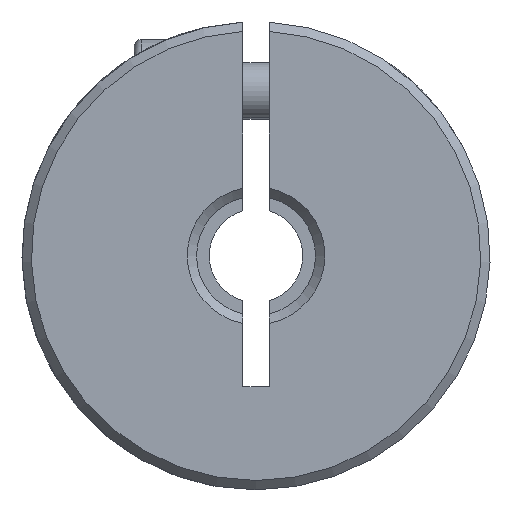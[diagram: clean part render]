
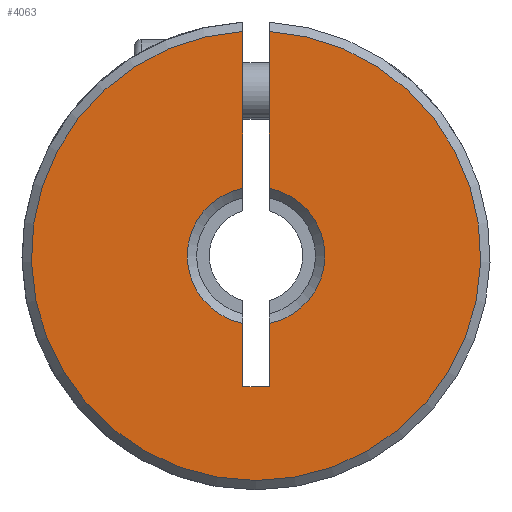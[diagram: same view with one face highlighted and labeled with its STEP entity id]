
A CAD part, front view. The second image highlights one B-rep face of the part: STEP entity #4063.
In plain terms, the highlighted planar face has unit normal (0, -1, 0).
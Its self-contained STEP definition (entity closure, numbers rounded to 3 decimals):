
#179 = CIRCLE ( 'NONE', #3247, 3.675 ) ;
#285 = EDGE_CURVE ( 'NONE', #2249, #4056, #3936, .T. ) ;
#308 = VERTEX_POINT ( 'NONE', #1113 ) ;
#445 = DIRECTION ( 'NONE',  ( 1., 0., 0. ) ) ;
#482 = LINE ( 'NONE', #2557, #4100 ) ;
#499 = AXIS2_PLACEMENT_3D ( 'NONE', #5404, #4879, #2481 ) ;
#590 = CARTESIAN_POINT ( 'NONE',  ( -0.7, 0.25, -3.608 ) ) ;
#722 = ORIENTED_EDGE ( 'NONE', *, *, #2372, .F. ) ;
#805 = DIRECTION ( 'NONE',  ( 0., 0., 1. ) ) ;
#829 = CARTESIAN_POINT ( 'NONE',  ( 0.7, 0.25, -7. ) ) ;
#949 = CARTESIAN_POINT ( 'NONE',  ( 0.7, 0.25, 3.608 ) ) ;
#1040 = CARTESIAN_POINT ( 'NONE',  ( -0.7, 0.25, 11.98 ) ) ;
#1113 = CARTESIAN_POINT ( 'NONE',  ( 0.7, 0.25, 11.98 ) ) ;
#1128 = LINE ( 'NONE', #2783, #1753 ) ;
#1169 = ORIENTED_EDGE ( 'NONE', *, *, #3937, .T. ) ;
#1235 = DIRECTION ( 'NONE',  ( 0., 1., 0. ) ) ;
#1242 = ORIENTED_EDGE ( 'NONE', *, *, #2081, .T. ) ;
#1300 = CIRCLE ( 'NONE', #3140, 3.675 ) ;
#1374 = CARTESIAN_POINT ( 'NONE',  ( -0.7, 0.25, -7. ) ) ;
#1675 = PLANE ( 'NONE',  #4092 ) ;
#1753 = VECTOR ( 'NONE', #4859, 1000. ) ;
#1815 = LINE ( 'NONE', #1374, #4286 ) ;
#1843 = CARTESIAN_POINT ( 'NONE',  ( 0.7, 0.25, -7. ) ) ;
#2081 = EDGE_CURVE ( 'NONE', #4509, #3232, #179, .T. ) ;
#2183 = EDGE_CURVE ( 'NONE', #3078, #3232, #1815, .T. ) ;
#2199 = DIRECTION ( 'NONE',  ( 0., 0., 1. ) ) ;
#2234 = DIRECTION ( 'NONE',  ( 0., 0., -1. ) ) ;
#2249 = VERTEX_POINT ( 'NONE', #1843 ) ;
#2357 = CARTESIAN_POINT ( 'NONE',  ( 0.7, 0.25, -7. ) ) ;
#2372 = EDGE_CURVE ( 'NONE', #4509, #4015, #1128, .T. ) ;
#2399 = ORIENTED_EDGE ( 'NONE', *, *, #5426, .F. ) ;
#2467 = LINE ( 'NONE', #829, #3427 ) ;
#2481 = DIRECTION ( 'NONE',  ( 0., 0., 1. ) ) ;
#2557 = CARTESIAN_POINT ( 'NONE',  ( 0.7, 0.25, -7. ) ) ;
#2590 = CARTESIAN_POINT ( 'NONE',  ( 12.5, 0.25, -50. ) ) ;
#2639 = CARTESIAN_POINT ( 'NONE',  ( -0.7, 0.25, -7. ) ) ;
#2780 = EDGE_CURVE ( 'NONE', #4015, #2249, #2467, .T. ) ;
#2783 = CARTESIAN_POINT ( 'NONE',  ( -0.7, 0.25, -7. ) ) ;
#2903 = CARTESIAN_POINT ( 'NONE',  ( 0., 0.25, 0. ) ) ;
#2917 = DIRECTION ( 'NONE',  ( 0., 0., 1. ) ) ;
#3078 = VERTEX_POINT ( 'NONE', #1040 ) ;
#3140 = AXIS2_PLACEMENT_3D ( 'NONE', #2903, #4573, #805 ) ;
#3232 = VERTEX_POINT ( 'NONE', #3847 ) ;
#3247 = AXIS2_PLACEMENT_3D ( 'NONE', #5409, #1235, #2917 ) ;
#3427 = VECTOR ( 'NONE', #445, 1000. ) ;
#3806 = CARTESIAN_POINT ( 'NONE',  ( 0.7, 0.25, -3.608 ) ) ;
#3847 = CARTESIAN_POINT ( 'NONE',  ( -0.7, 0.25, 3.608 ) ) ;
#3856 = DIRECTION ( 'NONE',  ( 0., 0., 1. ) ) ;
#3914 = CIRCLE ( 'NONE', #499, 12. ) ;
#3935 = ORIENTED_EDGE ( 'NONE', *, *, #285, .F. ) ;
#3936 = LINE ( 'NONE', #2357, #5203 ) ;
#3937 = EDGE_CURVE ( 'NONE', #3078, #308, #3914, .T. ) ;
#4015 = VERTEX_POINT ( 'NONE', #2639 ) ;
#4016 = DIRECTION ( 'NONE',  ( 0., 0., 1. ) ) ;
#4056 = VERTEX_POINT ( 'NONE', #3806 ) ;
#4063 = ADVANCED_FACE ( 'NONE', ( #5430 ), #1675, .F. ) ;
#4092 = AXIS2_PLACEMENT_3D ( 'NONE', #2590, #4240, #2199 ) ;
#4100 = VECTOR ( 'NONE', #3856, 1000. ) ;
#4240 = DIRECTION ( 'NONE',  ( 0., 1., 0. ) ) ;
#4286 = VECTOR ( 'NONE', #2234, 1000. ) ;
#4490 = ORIENTED_EDGE ( 'NONE', *, *, #2183, .F. ) ;
#4509 = VERTEX_POINT ( 'NONE', #590 ) ;
#4573 = DIRECTION ( 'NONE',  ( 0., 1., 0. ) ) ;
#4817 = ORIENTED_EDGE ( 'NONE', *, *, #2780, .F. ) ;
#4859 = DIRECTION ( 'NONE',  ( 0., 0., -1. ) ) ;
#4865 = EDGE_LOOP ( 'NONE', ( #2399, #5300, #3935, #4817, #722, #1242, #4490, #1169 ) ) ;
#4879 = DIRECTION ( 'NONE',  ( 0., -1., 0. ) ) ;
#5203 = VECTOR ( 'NONE', #4016, 1000. ) ;
#5300 = ORIENTED_EDGE ( 'NONE', *, *, #5351, .T. ) ;
#5351 = EDGE_CURVE ( 'NONE', #5421, #4056, #1300, .T. ) ;
#5404 = CARTESIAN_POINT ( 'NONE',  ( 0., 0.25, 0. ) ) ;
#5409 = CARTESIAN_POINT ( 'NONE',  ( 0., 0.25, 0. ) ) ;
#5421 = VERTEX_POINT ( 'NONE', #949 ) ;
#5426 = EDGE_CURVE ( 'NONE', #5421, #308, #482, .T. ) ;
#5430 = FACE_OUTER_BOUND ( 'NONE', #4865, .T. ) ;
